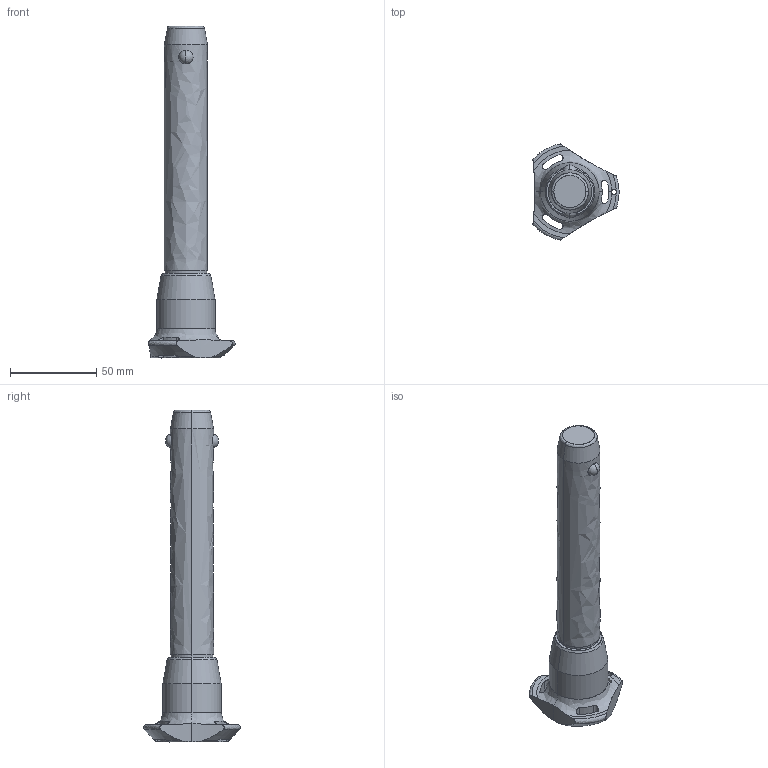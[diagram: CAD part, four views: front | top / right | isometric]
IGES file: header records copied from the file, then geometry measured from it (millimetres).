
Start section: SolidWorks IGES file using analytic representation for surfaces
Global section: file name: C:\Users\ianosborn\Desktop\QR1734_v2\QR1734_v2_20251113_IGES\QR1734.M25-120-S.igs; native system: SolidWorks 2019; preprocessor: SolidWorks 2019; author: IanOsborn; date: 251112.144723; units: millimetre
Bounding box: 50.03 x 56.02 x 192.7 mm (x, y, z)
Surface area: 20874 mm2 (no closed solid volume)
Topology: 0 solids, 0 shells, 65 faces, 1310 edges, 1306 vertices
Faces by surface type: revolution 50, bspline 15
